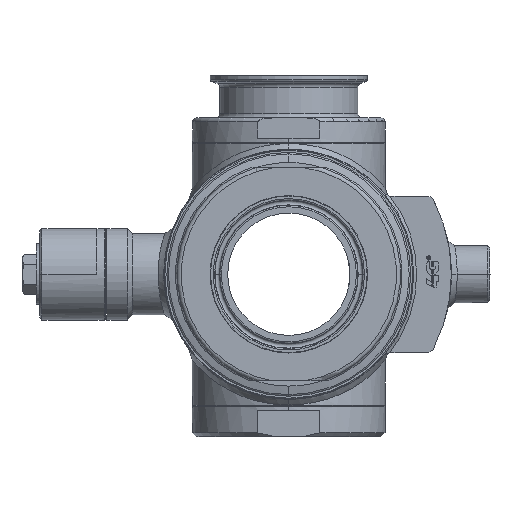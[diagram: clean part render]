
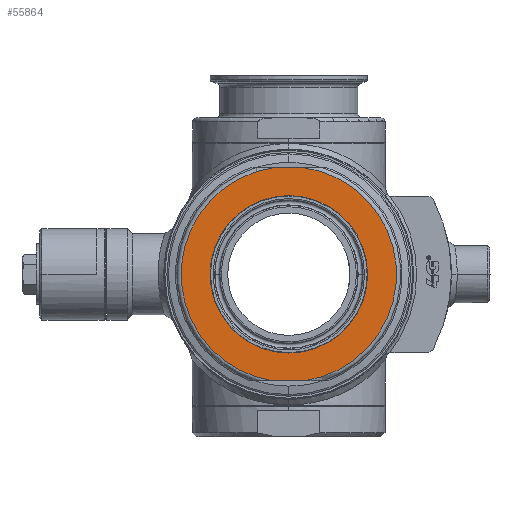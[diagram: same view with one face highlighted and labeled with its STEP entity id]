
A CAD part, left-side view. The second image highlights one B-rep face of the part: STEP entity #55864.
In plain terms, the highlighted planar face has unit normal (-1, 0, 0).
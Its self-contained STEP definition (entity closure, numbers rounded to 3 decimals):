
#4343=CARTESIAN_POINT('',(-77.,0.,0.));
#4344=DIRECTION('',(1.,0.,0.));
#4345=DIRECTION('',(0.,0.137,-0.991));
#4346=AXIS2_PLACEMENT_3D('',#4343,#4344,#4345);
#4351=DIRECTION('',(0.,1.,0.));
#4352=VECTOR('',#4351,14.526);
#4353=CARTESIAN_POINT('',(-77.,-7.263,52.5));
#4354=LINE('',#4353,#4352);
#4358=CARTESIAN_POINT('',(-77.,0.,0.));
#4359=DIRECTION('',(1.,0.,0.));
#4360=DIRECTION('',(0.,-0.137,0.991));
#4361=AXIS2_PLACEMENT_3D('',#4358,#4359,#4360);
#4366=DIRECTION('',(0.,1.,0.));
#4367=VECTOR('',#4366,14.526);
#4368=CARTESIAN_POINT('',(-77.,-7.263,-52.5));
#4369=LINE('',#4368,#4367);
#4373=CARTESIAN_POINT('',(-77.,0.,0.));
#4374=DIRECTION('',(-1.,0.,0.));
#4375=DIRECTION('',(0.,-1.,0.));
#4376=AXIS2_PLACEMENT_3D('',#4373,#4374,#4375);
#4381=CARTESIAN_POINT('',(-77.,0.,0.));
#4382=DIRECTION('',(-1.,0.,0.));
#4383=DIRECTION('',(0.,1.,0.));
#4384=AXIS2_PLACEMENT_3D('',#4381,#4382,#4383);
#4462=CARTESIAN_POINT('',(-77.,7.263,52.5));
#4606=CARTESIAN_POINT('',(-77.,-7.263,-52.5));
#51936=VERTEX_POINT('',#4462);
#51937=CARTESIAN_POINT('',(-77.,7.263,-52.5));
#51938=VERTEX_POINT('',#51937);
#51941=VERTEX_POINT('',#4606);
#51942=CARTESIAN_POINT('',(-77.,-7.263,52.5));
#51943=VERTEX_POINT('',#51942);
#51945=CARTESIAN_POINT('',(-77.,-36.,0.));
#51946=CARTESIAN_POINT('',(-77.,36.,0.));
#51947=VERTEX_POINT('',#51945);
#51948=VERTEX_POINT('',#51946);
#55844=CARTESIAN_POINT('',(-77.,0.,0.));
#55845=DIRECTION('',(-1.,0.,0.));
#55846=DIRECTION('',(0.,1.,0.));
#55847=AXIS2_PLACEMENT_3D('',#55844,#55845,#55846);
#55848=PLANE('',#55847);
#55850=ORIENTED_EDGE('',*,*,#55849,.T.);
#55852=ORIENTED_EDGE('',*,*,#55851,.F.);
#55854=ORIENTED_EDGE('',*,*,#55853,.T.);
#55856=ORIENTED_EDGE('',*,*,#55855,.T.);
#55857=EDGE_LOOP('',(#55850,#55852,#55854,#55856));
#55858=FACE_OUTER_BOUND('',#55857,.F.);
#55860=ORIENTED_EDGE('',*,*,#55859,.T.);
#55861=ORIENTED_EDGE('',*,*,#55834,.T.);
#55862=EDGE_LOOP('',(#55860,#55861));
#55863=FACE_BOUND('',#55862,.F.);
#55864=ADVANCED_FACE('',(#55858,#55863),#55848,.T.);
#4347=CIRCLE('',#4346,53.);
#4362=CIRCLE('',#4361,53.);
#4377=CIRCLE('',#4376,36.);
#4385=CIRCLE('',#4384,36.);
#55834=EDGE_CURVE('',#51948,#51947,#4385,.T.);
#55849=EDGE_CURVE('',#51938,#51936,#4347,.T.);
#55851=EDGE_CURVE('',#51943,#51936,#4354,.T.);
#55853=EDGE_CURVE('',#51943,#51941,#4362,.T.);
#55855=EDGE_CURVE('',#51941,#51938,#4369,.T.);
#55859=EDGE_CURVE('',#51947,#51948,#4377,.T.);
